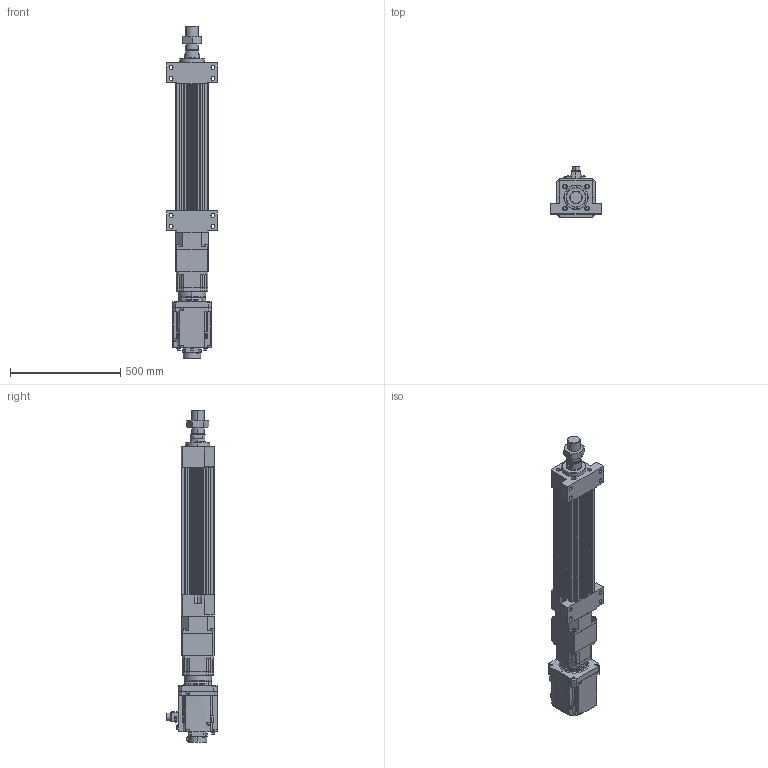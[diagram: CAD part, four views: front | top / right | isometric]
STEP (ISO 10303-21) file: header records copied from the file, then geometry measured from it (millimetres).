
FILE_DESCRIPTION (( 'STEP AP203' ), '1' );
FILE_NAME ('HES150NS(HS)-S300-W050G00-M-FFB.STEP', '2026-06-10T06:40:17', ( 'tms' ), ( '' ), 'SwSTEP 2.0', 'SolidWorks 2013', '' );
FILE_SCHEMA (( 'CONFIG_CONTROL_DESIGN' ));
Length unit declared in the file: millimetre
Products named in the file (9): HG-SR502B; HES150-S-G142; AB1421; HES150-M-ROD-300; HES150NS(HS)-S300-W050G00-M-FFB; AB1422; M56X2.0P; HES150-FFB-300; AB1423
Assembly tree (8 placements, depth 2):
  HES150NS(HS)-S300-W050G00-M-FFB
    HES150-FFB-300
    HES150-M-ROD-300
    M56X2.0P
    HES150-S-G142
    AB1421
    AB1422
    AB1423
    HG-SR502B
Bounding box: 230 x 228.85 x 1503 mm (x, y, z)
Volume: 17898646.5 mm3; surface area: 1821844.7 mm2
Topology: 5 solids, 19 shells, 1554 faces, 4050 edges, 2642 vertices
Faces by surface type: cylinder 710, plane 622, cone 140, bspline 76, torus 6
Entity records: 56814 total; most frequent: CARTESIAN_POINT 17056, DIRECTION 8322, ORIENTED_EDGE 8026, EDGE_CURVE 4035, AXIS2_PLACEMENT_3D 3133, VERTEX_POINT 2642, LINE 2056, VECTOR 2056
